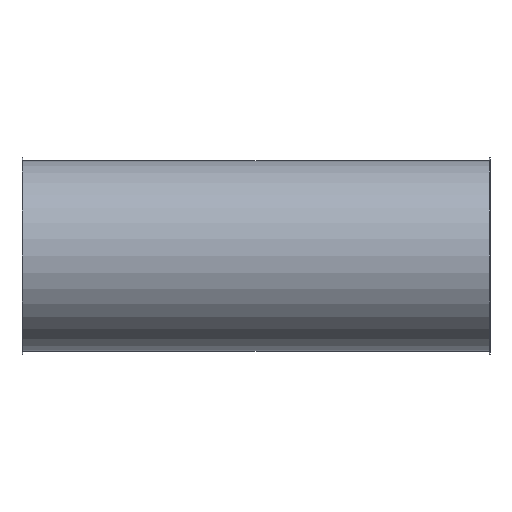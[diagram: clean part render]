
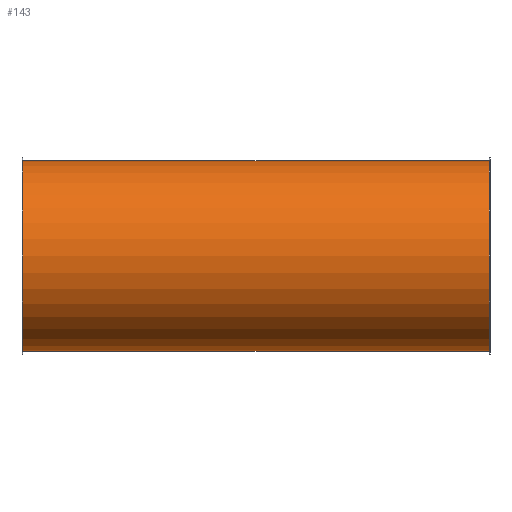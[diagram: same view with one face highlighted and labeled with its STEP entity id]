
A CAD part, front view. The second image highlights one B-rep face of the part: STEP entity #143.
In plain terms, the highlighted cylindrical face has radius 201 mm (diameter 402 mm), a full revolution.
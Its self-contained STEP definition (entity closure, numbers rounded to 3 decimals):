
#112=CARTESIAN_POINT('',(952.119,2.817,0.0));
#113=VERTEX_POINT('',#112);
#114=CARTESIAN_POINT('',(952.119,203.817,0.0));
#115=DIRECTION('',(-1.0,0.0,0.0));
#116=DIRECTION('',(0.0,-1.0,0.0));
#117=AXIS2_PLACEMENT_3D('',#114,#115,#116);
#118=CIRCLE('',#117,201.);
#119=EDGE_CURVE('',#113,#113,#118,.T.);
#124=CARTESIAN_POINT('',(461.119,203.817,0.0));
#125=DIRECTION('',(-1.0,0.,0.0));
#126=DIRECTION('',(0.0,-1.0,0.0));
#127=AXIS2_PLACEMENT_3D('',#124,#125,#126);
#128=CYLINDRICAL_SURFACE('',#127,201.);
#129=CARTESIAN_POINT('',(-29.881,2.817,0.0));
#130=VERTEX_POINT('',#129);
#131=CARTESIAN_POINT('',(-29.881,203.817,0.0));
#132=DIRECTION('',(-1.0,0.0,0.0));
#133=DIRECTION('',(0.0,-1.0,0.0));
#134=AXIS2_PLACEMENT_3D('',#131,#132,#133);
#135=CIRCLE('',#134,201.0);
#136=EDGE_CURVE('',#130,#130,#135,.T.);
#137=ORIENTED_EDGE('',*,*,#136,.F.);
#138=EDGE_LOOP('',(#137));
#139=FACE_OUTER_BOUND('',#138,.T.);
#140=ORIENTED_EDGE('',*,*,#119,.T.);
#141=EDGE_LOOP('',(#140));
#142=FACE_BOUND('',#141,.T.);
#143=ADVANCED_FACE('',(#139,#142),#128,.T.);
